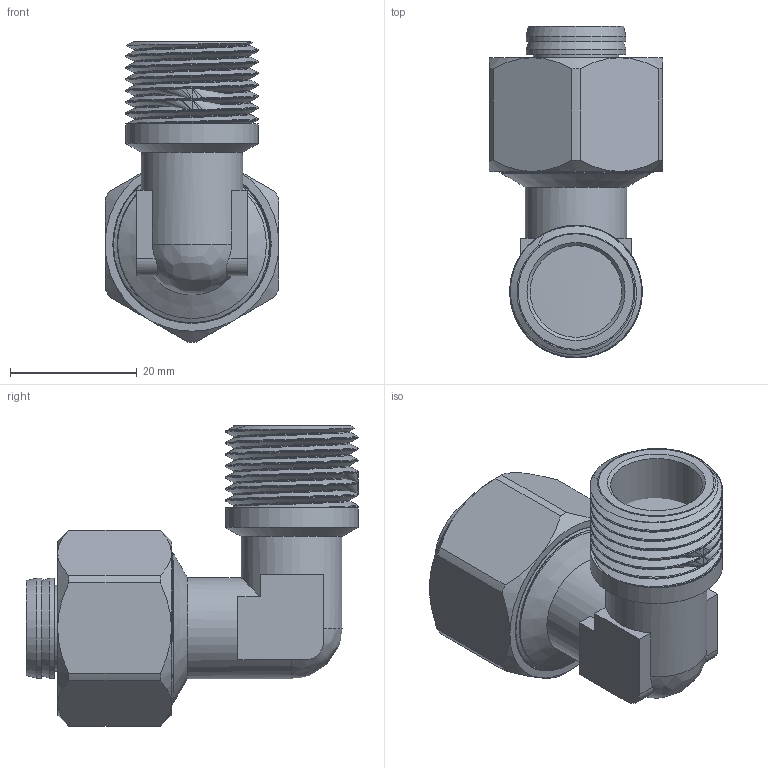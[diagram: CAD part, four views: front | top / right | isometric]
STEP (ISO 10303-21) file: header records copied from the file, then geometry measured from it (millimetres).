
FILE_DESCRIPTION(/* description */ (''),/* implementation_level */ '2;1');
FILE_NAME(/* name */ 'C:\Users\Doom\Desktop\Фадотех\Обжим\RFU23 20X12M 30.03.2020\RFU23 20X12M 30.03.2020.stp',/* time_stamp */ '2022-06-01T16:54:02+03:00',/* author */ ('Doom'),/* organization */ (''),/* preprocessor_version */ 'ST-DEVELOPER v18',/* originating_system */ 'Autodesk Inventor 2020',/* authorisation */ '');
FILE_SCHEMA (('AUTOMOTIVE_DESIGN { 1 0 10303 214 3 1 1 }'));
Length unit declared in the file: millimetre
Products named in the file (5): RFU23 20X12M 30.03.2020; RFU21 16X12M 30.03.2020; FADO MC Nut-20 15.02.2020; FADO MC Socket-20 15.02.2020; Olive 20 15.02.2020
Assembly tree (4 placements, depth 2):
  RFU23 20X12M 30.03.2020
    RFU21 16X12M 30.03.2020
    FADO MC Nut-20 15.02.2020
    FADO MC Socket-20 15.02.2020
    Olive 20 15.02.2020
Bounding box: 27.5 x 52.48 x 47.5 mm (x, y, z)
Volume: 16499.7 mm3; surface area: 22358.9 mm2
Topology: 7 solids, 7 shells, 550 faces, 1505 edges, 1009 vertices
Faces by surface type: bspline 264, plane 161, cylinder 94, cone 29, torus 2
Full cylindrical faces by diameter (mm): 11.5 x1, 12 x2, 13.531 x2, 14.5 x2, 15.802 x5, 16 x2, 17.391 x1, 17.5 x1, 18 x1, 18.26 x2, 20.5 x1, 20.95 x9, 22.776 x8, 23 x1, 23.517 x2, 24.1 x1, 25 x10
Entity records: 34953 total; most frequent: CARTESIAN_POINT 22584, ORIENTED_EDGE 2998, DIRECTION 1736, EDGE_CURVE 1499, VERTEX_POINT 1007, B_SPLINE_CURVE_WITH_KNOTS 607, EDGE_LOOP 606, LINE 582
